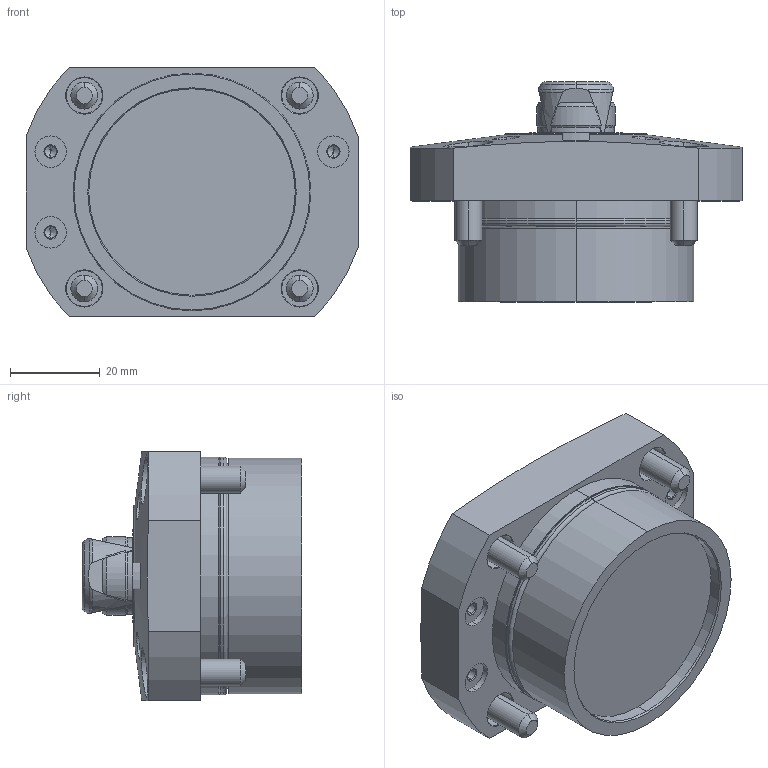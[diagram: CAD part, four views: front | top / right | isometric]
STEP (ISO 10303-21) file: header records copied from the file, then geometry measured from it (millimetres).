
FILE_DESCRIPTION (( 'STEP AP203' ), '1' );
FILE_NAME ('SFH3180.STEP', '2010-11-03T23:35:05', ( ' ' ), ( ' ' ), 'SwSTEP 2.0', 'SolidWorks 2010', '' );
FILE_SCHEMA (( 'CONFIG_CONTROL_DESIGN' ));
Length unit declared in the file: millimetre
Products named in the file (7): 6妏寠晅无倌_M3_10; SFH3180; SFH3180_套菁轤礁诎蔬晅; SFH3_钾堇轤O剌皋晅; φ18_ｽﾘｰﾌﾞ; 冇18_郫霓; 6妏寠晅无倌_M6_16
Assembly tree (14 placements, depth 2):
  SFH3180
    6妏寠晅无倌_M3_10  x6
    冇18_郫霓
    SFH3_钾堇轤O剌皋晅
    6妏寠晅无倌_M6_16  x4
    φ18_ｽﾘｰﾌﾞ
    SFH3180_套菁轤礁诎蔬晅
Bounding box: 74 x 49 x 55.5 mm (x, y, z)
Volume: 97164.2 mm3; surface area: 30588.7 mm2
Topology: 18 solids, 18 shells, 558 faces, 1133 edges, 622 vertices
Faces by surface type: plane 225, cone 182, cylinder 132, torus 19
Entity records: 10346 total; most frequent: CARTESIAN_POINT 2463, DIRECTION 1538, ORIENTED_EDGE 1378, EDGE_CURVE 689, AXIS2_PLACEMENT_3D 642, VERTEX_POINT 422, EDGE_LOOP 355, CIRCLE 315
